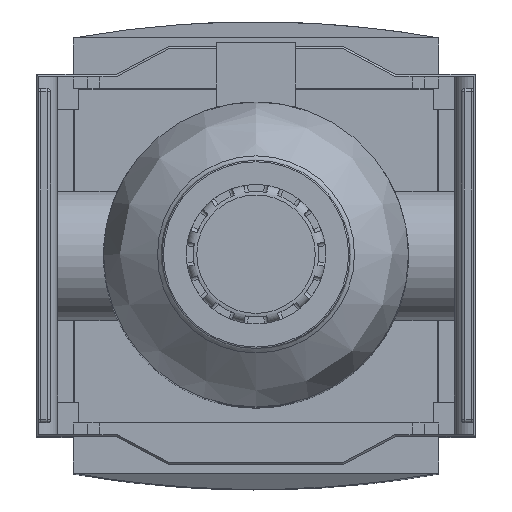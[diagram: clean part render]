
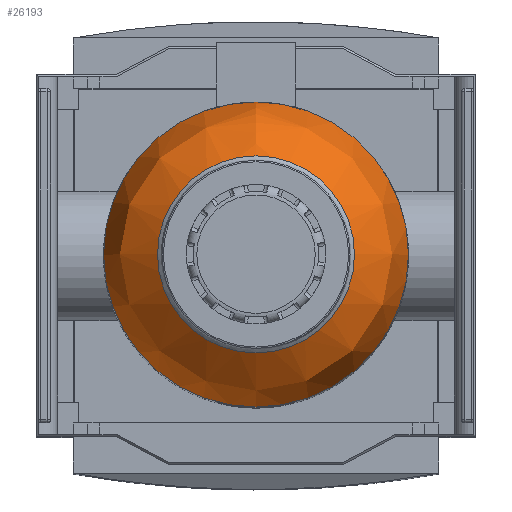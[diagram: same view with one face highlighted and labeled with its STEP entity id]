
A CAD part, top view. The second image highlights one B-rep face of the part: STEP entity #26193.
In plain terms, the highlighted free-form (B-spline) face has degree [2, 2] with [5, 9] control points.
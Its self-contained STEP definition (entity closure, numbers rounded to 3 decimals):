
#25808=CARTESIAN_POINT('',(0.,21.9,119.));
#25809=VERTEX_POINT('',#25808);
#25810=CARTESIAN_POINT('',(0.,0.0,119.));
#25811=DIRECTION('',(0.0,0.0,-1.0));
#25812=DIRECTION('',(0.0,1.0,0.0));
#25813=AXIS2_PLACEMENT_3D('',#25810,#25811,#25812);
#25814=CIRCLE('',#25813,21.9);
#25815=EDGE_CURVE('',#25809,#25809,#25814,.T.);
#26119=CARTESIAN_POINT('',(0.,14.146,130.224));
#26120=VERTEX_POINT('',#26119);
#26121=CARTESIAN_POINT('',(0.,0.0,130.224));
#26122=DIRECTION('',(0.0,0.0,-1.0));
#26123=DIRECTION('',(0.0,1.0,0.0));
#26124=AXIS2_PLACEMENT_3D('',#26121,#26122,#26123);
#26125=CIRCLE('',#26124,14.146);
#26126=EDGE_CURVE('',#26120,#26120,#26125,.T.);
#26134=CARTESIAN_POINT('',(0.0,0.,125.782));
#26135=CARTESIAN_POINT('',(-4.999,0.,133.08));
#26136=CARTESIAN_POINT('',(-13.45,0.,130.463));
#26137=CARTESIAN_POINT('',(-21.9,0.,127.846));
#26138=CARTESIAN_POINT('',(-21.9,0.,119.));
#26139=CARTESIAN_POINT('',(0.,0.,125.782));
#26140=CARTESIAN_POINT('',(-4.999,-4.999,133.08));
#26141=CARTESIAN_POINT('',(-13.45,-13.45,130.463));
#26142=CARTESIAN_POINT('',(-21.9,-21.9,127.846));
#26143=CARTESIAN_POINT('',(-21.9,-21.9,119.));
#26144=CARTESIAN_POINT('',(0.,0.,125.782));
#26145=CARTESIAN_POINT('',(0.,-4.999,133.08));
#26146=CARTESIAN_POINT('',(0.,-13.45,130.463));
#26147=CARTESIAN_POINT('',(0.,-21.9,127.846));
#26148=CARTESIAN_POINT('',(0.,-21.9,119.));
#26149=CARTESIAN_POINT('',(0.,0.,125.782));
#26150=CARTESIAN_POINT('',(4.999,-4.999,133.08));
#26151=CARTESIAN_POINT('',(13.45,-13.45,130.463));
#26152=CARTESIAN_POINT('',(21.9,-21.9,127.846));
#26153=CARTESIAN_POINT('',(21.9,-21.9,119.));
#26154=CARTESIAN_POINT('',(0.,0.,125.782));
#26155=CARTESIAN_POINT('',(4.999,0.,133.08));
#26156=CARTESIAN_POINT('',(13.45,0.,130.463));
#26157=CARTESIAN_POINT('',(21.9,0.,127.846));
#26158=CARTESIAN_POINT('',(21.9,0.,119.));
#26159=CARTESIAN_POINT('',(0.,0.,125.782));
#26160=CARTESIAN_POINT('',(4.999,4.999,133.08));
#26161=CARTESIAN_POINT('',(13.45,13.45,130.463));
#26162=CARTESIAN_POINT('',(21.9,21.9,127.846));
#26163=CARTESIAN_POINT('',(21.9,21.9,119.));
#26164=CARTESIAN_POINT('',(0.,0.,125.782));
#26165=CARTESIAN_POINT('',(0.,4.999,133.08));
#26166=CARTESIAN_POINT('',(0.,13.45,130.463));
#26167=CARTESIAN_POINT('',(0.,21.9,127.846));
#26168=CARTESIAN_POINT('',(0.,21.9,119.));
#26169=CARTESIAN_POINT('',(0.,0.,125.782));
#26170=CARTESIAN_POINT('',(-4.999,4.999,133.08));
#26171=CARTESIAN_POINT('',(-13.45,13.45,130.463));
#26172=CARTESIAN_POINT('',(-21.9,21.9,127.846));
#26173=CARTESIAN_POINT('',(-21.9,21.9,119.));
#26174=CARTESIAN_POINT('',(0.0,0.,125.782));
#26175=CARTESIAN_POINT('',(-4.999,0.,133.08));
#26176=CARTESIAN_POINT('',(-13.45,0.,130.463));
#26177=CARTESIAN_POINT('',(-21.9,0.,127.846));
#26178=CARTESIAN_POINT('',(-21.9,0.,119.));
#26186=(BOUNDED_SURFACE()B_SPLINE_SURFACE(2,2,((#26134,#26139,#26144,#26149,#26154,#26159,#26164,#26169,#26174),(#26135,#26140,#26145,#26150,#26155,#26160,#26165,#26170,#26175),(#26136,#26141,#26146,#26151,#26156,#26161,#26166,#26171,#26176),(#26137,#26142,#26147,#26152,#26157,#26162,#26167,#26172,#26177),(#26138,#26143,#26148,#26153,#26158,#26163,#26168,#26173,#26178)),.UNSPECIFIED.,.F.,.T.,.U.)B_SPLINE_SURFACE_WITH_KNOTS((3,2,3),(3,2,2,2,3),(-2.541,-1.27,0.),(0.0,1.571,3.142,4.712,6.283),.UNSPECIFIED.)GEOMETRIC_REPRESENTATION_ITEM()RATIONAL_B_SPLINE_SURFACE(((1.0,0.707,1.0,0.707,1.0,0.707,1.0,0.707,1.0),(0.805,0.569,0.805,0.569,0.805,0.569,0.805,0.569,0.805),(1.0,0.707,1.0,0.707,1.0,0.707,1.0,0.707,1.0),(0.805,0.569,0.805,0.569,0.805,0.569,0.805,0.569,0.805),(1.0,0.707,1.0,0.707,1.0,0.707,1.0,0.707,1.0)))REPRESENTATION_ITEM('')SURFACE());
#26187=ORIENTED_EDGE('',*,*,#25815,.F.);
#26188=EDGE_LOOP('',(#26187));
#26189=FACE_OUTER_BOUND('',#26188,.T.);
#26190=ORIENTED_EDGE('',*,*,#26126,.T.);
#26191=EDGE_LOOP('',(#26190));
#26192=FACE_BOUND('',#26191,.T.);
#26193=ADVANCED_FACE('',(#26189,#26192),#26186,.T.);
